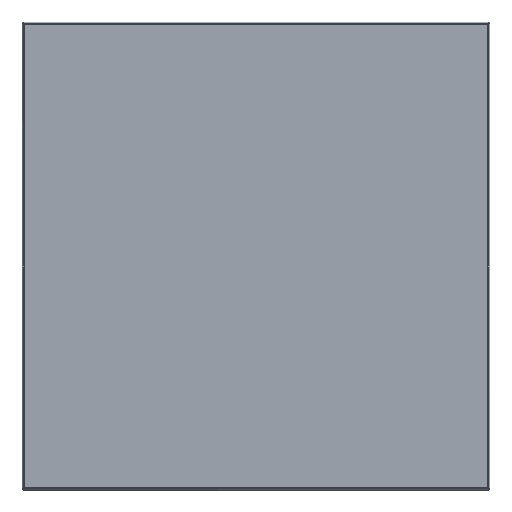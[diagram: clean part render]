
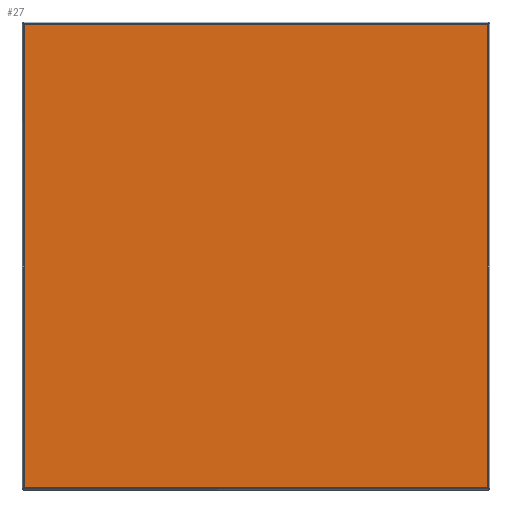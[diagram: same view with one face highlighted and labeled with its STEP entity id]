
A CAD part, top view. The second image highlights one B-rep face of the part: STEP entity #27.
In plain terms, the highlighted planar face has unit normal (0, 0, 1).
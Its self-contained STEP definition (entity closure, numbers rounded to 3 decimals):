
#27=ADVANCED_FACE('',(#63),#489,.T.);
#63=FACE_OUTER_BOUND('',#99,.T.);
#99=EDGE_LOOP('',(#140,#141,#142,#143));
#140=ORIENTED_EDGE('',*,*,#288,.T.);
#141=ORIENTED_EDGE('',*,*,#290,.T.);
#142=ORIENTED_EDGE('',*,*,#284,.T.);
#143=ORIENTED_EDGE('',*,*,#289,.T.);
#284=EDGE_CURVE('',#431,#430,#384,.T.);
#288=EDGE_CURVE('',#434,#435,#388,.T.);
#289=EDGE_CURVE('',#430,#434,#389,.T.);
#290=EDGE_CURVE('',#435,#431,#390,.T.);
#384=B_SPLINE_CURVE_WITH_KNOTS('',1,(#826,#827),.UNSPECIFIED.,.F.,.F.,(2,
2),(600.202,1199.798),.UNSPECIFIED.);
#388=B_SPLINE_CURVE_WITH_KNOTS('',1,(#834,#835),.UNSPECIFIED.,.F.,.F.,(2,
2),(0.2,593.8),.UNSPECIFIED.);
#389=B_SPLINE_CURVE_WITH_KNOTS('',1,(#836,#837),.UNSPECIFIED.,.F.,.F.,(2,
2),(0.,593.8),.UNSPECIFIED.);
#390=B_SPLINE_CURVE_WITH_KNOTS('',1,(#838,#839),.UNSPECIFIED.,.F.,.F.,(2,
2),(0.2,594.),.UNSPECIFIED.);
#430=VERTEX_POINT('',#784);
#431=VERTEX_POINT('',#785);
#434=VERTEX_POINT('',#788);
#435=VERTEX_POINT('',#789);
#489=PLANE('',#521);
#521=AXIS2_PLACEMENT_3D('',#551,#536,$);
#536=DIRECTION('',(0.,0.,1.));
#551=CARTESIAN_POINT('',(-297.,-297.,28.));
#784=CARTESIAN_POINT('',(297.,296.8,28.));
#785=CARTESIAN_POINT('',(297.,-296.8,28.));
#788=CARTESIAN_POINT('',(-296.8,296.8,28.));
#789=CARTESIAN_POINT('',(-296.8,-296.8,28.));
#826=CARTESIAN_POINT('',(297.,-296.8,28.));
#827=CARTESIAN_POINT('',(297.,296.8,28.));
#834=CARTESIAN_POINT('',(-296.8,296.8,28.));
#835=CARTESIAN_POINT('',(-296.8,-296.8,28.));
#836=CARTESIAN_POINT('',(297.,296.8,28.));
#837=CARTESIAN_POINT('',(-296.8,296.8,28.));
#838=CARTESIAN_POINT('',(-296.8,-296.8,28.));
#839=CARTESIAN_POINT('',(297.,-296.8,28.));
